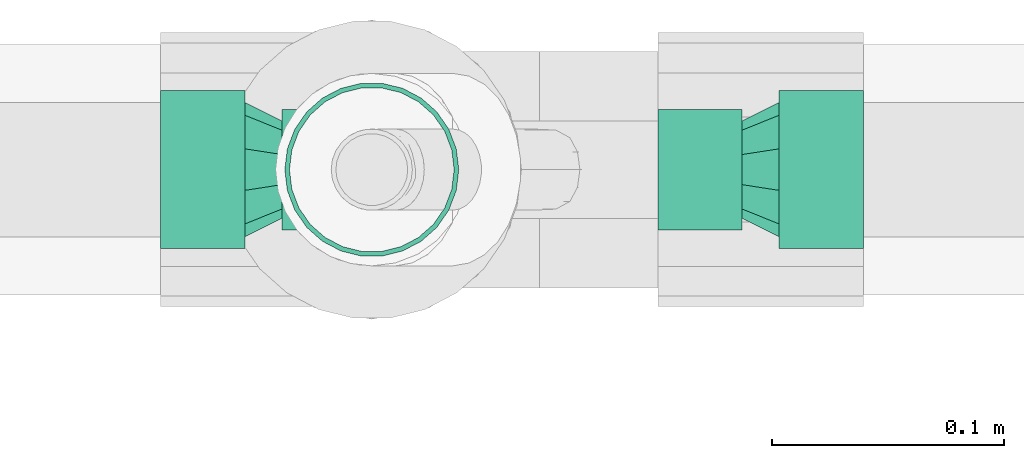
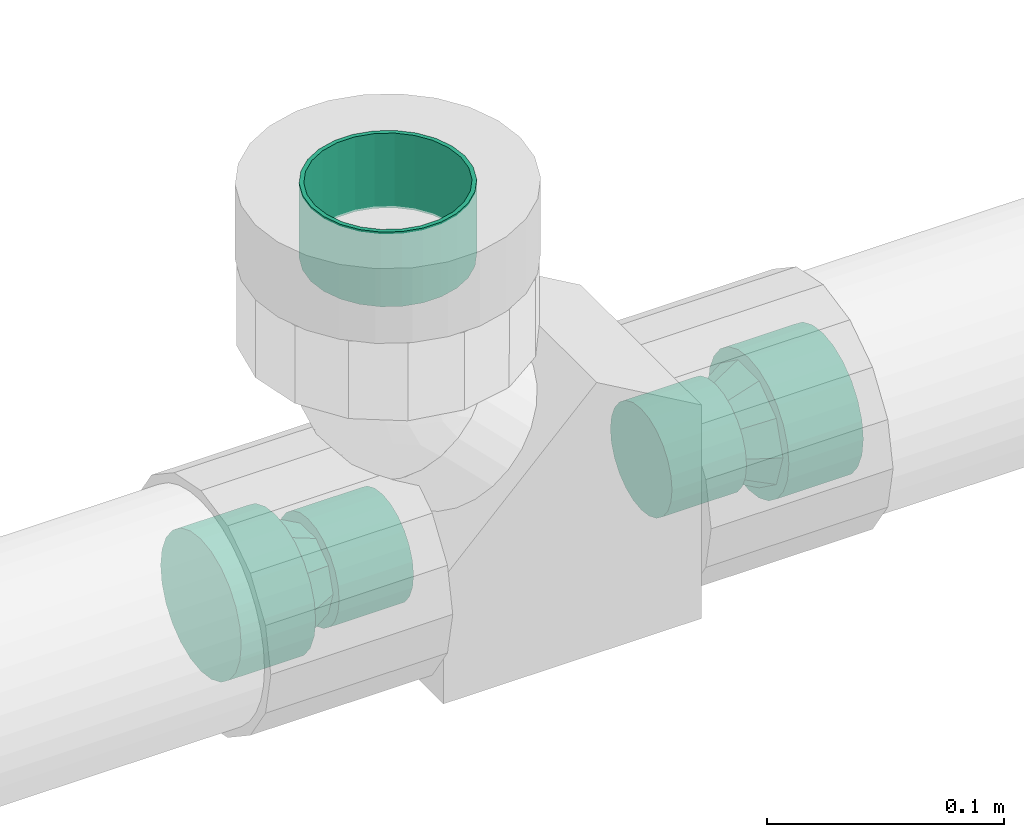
# One storey, part 13 of 35: 2 flow fittings, 1 flow segment.
"""IFC2X3 building model written with IfcOpenShell, lengths in millimetres."""

import ifcopenshell
import ifcopenshell.guid

model = None  # the IFC model being written
_history = None  # IfcOwnerHistory: only IFC2X3 demands one
_inside = {}  # id of a spatial element -> (the spatial element, [elements in it])
_under = {}  # id of a project, library or spatial element -> (it, [spatial elements below it])
_declared = {}  # id of a project -> (the project, [libraries it declares])
_typed = {}  # id of a type object -> (the type object, [elements of that type])
_made_of = {}  # id of a material, layer set ... -> (it, [elements and type objects made of it])


def new_model(schema):
    """Start an empty IFC model of exactly this schema.

    Asked for "IFC4X3", IfcOpenShell would pick the latest addendum, in which some entities
    have other attributes; the version numbers below select the first issue.
    IFC2X3 requires an IfcOwnerHistory on every rooted entity: one is made here for all.
    """
    global model, _history
    if schema == "IFC4X3":
        model = ifcopenshell.file(schema_version=(4, 3, 0, 0))
    else:
        model = ifcopenshell.file(schema=schema)
    _inside.clear()
    _under.clear()
    _declared.clear()
    _typed.clear()
    _made_of.clear()
    _history = None
    if model.schema == "IFC2X3":
        org = make("IfcOrganization", Name="unknown")
        user = make(
            "IfcPersonAndOrganization",
            ThePerson=make("IfcPerson", FamilyName="unknown"),
            TheOrganization=org,
        )
        app = make(
            "IfcApplication",
            ApplicationDeveloper=org,
            Version="unknown",
            ApplicationFullName="unknown",
            ApplicationIdentifier="unknown",
        )
        _history = make(
            "IfcOwnerHistory",
            OwningUser=user,
            OwningApplication=app,
            ChangeAction="ADDED",
            CreationDate=0,
        )
    return model


def make(cls, **values):
    """One entity of the class cls with the attributes given. An attribute that is None is left unset."""
    return model.create_entity(
        cls, **{name: value for name, value in values.items() if value is not None}
    )


def entity(cls, *values):
    """Any entity or typed value of the class cls, its attributes in the order of the schema. None: left unset."""
    e = model.create_entity(cls)
    for i, value in enumerate(values):
        if value is not None:
            e[i] = value
    return e


def rooted(cls, **values):
    """An entity with a GlobalId (a new one), such as an element, a storey or a relation."""
    return make(cls, GlobalId=ifcopenshell.guid.new(), OwnerHistory=_history, **values)


def si_unit(unit_type, name, prefix=None):
    """IfcSIUnit, for example si_unit("LENGTHUNIT", "METRE", prefix="MILLI")."""
    return make("IfcSIUnit", UnitType=unit_type, Prefix=prefix, Name=name)


def converted_unit(unit_type, name, factor, base, dimensions=None, offset=None):
    """IfcConversionBasedUnit, such as the inch: factor (a typed value) times the base unit."""
    return make(
        "IfcConversionBasedUnit"
        if offset is None
        else "IfcConversionBasedUnitWithOffset",
        ConversionOffset=offset,
        Dimensions=None
        if dimensions is None
        else entity("IfcDimensionalExponents", *dimensions),
        UnitType=unit_type,
        Name=name,
        ConversionFactor=make(
            "IfcMeasureWithUnit", ValueComponent=factor, UnitComponent=base
        ),
    )


def derived_unit(unit_type, elements):
    """IfcDerivedUnit: a product of units, each with its exponent."""
    return make(
        "IfcDerivedUnit",
        Elements=[
            make("IfcDerivedUnitElement", Unit=unit, Exponent=power)
            for unit, power in elements
        ],
        UnitType=unit_type,
    )


def assignment(units):
    """IfcUnitAssignment: the units of a project."""
    return None if units is None else make("IfcUnitAssignment", Units=units)


def point(xyz):
    """IfcCartesianPoint."""
    return None if xyz is None else make("IfcCartesianPoint", Coordinates=xyz)


def direction(xyz):
    """IfcDirection."""
    return None if xyz is None else make("IfcDirection", DirectionRatios=xyz)


def frame(location, z_axis=None, x_axis=None):
    """IfcAxis2Placement3D, a coordinate frame: its origin and axes. An axis left out is left unset."""
    return make(
        "IfcAxis2Placement3D",
        Location=point(location),
        Axis=direction(z_axis),
        RefDirection=direction(x_axis),
    )


def frame_2d(location, x_axis=None):
    """IfcAxis2Placement2D, a coordinate frame in the plane: its origin and x axis."""
    return make(
        "IfcAxis2Placement2D", Location=point(location), RefDirection=direction(x_axis)
    )


def origin_with_axes():
    """The frame at (0, 0, 0) with the z axis (0, 0, 1) and the x axis (1, 0, 0) written out."""
    return frame((0.0, 0.0, 0.0), z_axis=(0.0, 0.0, 1.0), x_axis=(1.0, 0.0, 0.0))


def origin_2d_with_axis():
    """The frame at (0, 0) in the plane with the x axis (1, 0) written out."""
    return frame_2d((0.0, 0.0), x_axis=(1.0, 0.0))


def place(relative_to, where):
    """IfcLocalPlacement: puts the frame where relative to a parent placement (None: the world)."""
    return make(
        "IfcLocalPlacement", PlacementRelTo=relative_to, RelativePlacement=where
    )


def context(
    kind, dimensions, precision=None, world=None, true_north=None, identifier=None
):
    """IfcGeometricRepresentationContext, for example the 3D "Model" context."""
    return make(
        "IfcGeometricRepresentationContext",
        ContextIdentifier=identifier,
        ContextType=kind,
        CoordinateSpaceDimension=dimensions,
        Precision=precision,
        WorldCoordinateSystem=world,
        TrueNorth=true_north,
    )


def subcontext(parent, identifier, kind, view, scale=None):
    """IfcGeometricRepresentationSubContext, for example "Body" below "Model"."""
    return make(
        "IfcGeometricRepresentationSubContext",
        ContextIdentifier=identifier,
        ContextType=kind,
        ParentContext=parent,
        TargetScale=scale,
        TargetView=view,
    )


def project(units=None, contexts=None):
    """IfcProject with its units and contexts."""
    return rooted(
        "IfcProject",
        Name="project",
        RepresentationContexts=contexts,
        UnitsInContext=assignment(units),
    )


def spatial(cls, under=None, at=None, **own):
    """A site, building, storey or space (cls), placed at a placement, below another one or the project."""
    s = rooted(cls, ObjectPlacement=at, **own)
    if under is not None:
        _under.setdefault(under.id(), (under, []))[1].append(s)
    return s


def profile(cls, at=None, kind="AREA", **sizes):
    """A parametric profile (cls). Its sizes go by their IFC names, for example OverallWidth=200.0."""
    return make(cls, ProfileType=kind, Position=at, **sizes)


def hollow_circle(**sizes):
    """IfcCircleHollowProfileDef."""
    return profile("IfcCircleHollowProfileDef", **sizes)


def extrude(swept, where, along, depth):
    """IfcExtrudedAreaSolid: the profile swept, set in the frame where, extruded along a direction by depth."""
    return make(
        "IfcExtrudedAreaSolid",
        SweptArea=swept,
        Position=where,
        ExtrudedDirection=direction(along),
        Depth=depth,
    )


def faces_of(points, faces, orient=None, outer=None):
    """IfcFace entities. A face is a list of loops; a loop is a list of indices into points, from 0.

    orient and outer hold one flag for each loop. By default every Orientation is true, the
    first loop of a face is its IfcFaceOuterBound and the others are IfcFaceBound.
    """
    made = []
    for i, loops in enumerate(faces):
        bounds = []
        for j, loop in enumerate(loops):
            is_outer = j == 0 if outer is None else outer[i][j]
            bounds.append(
                make(
                    "IfcFaceOuterBound" if is_outer else "IfcFaceBound",
                    Bound=make("IfcPolyLoop", Polygon=[points[k] for k in loop]),
                    Orientation=True if orient is None else orient[i][j],
                )
            )
        made.append(make("IfcFace", Bounds=bounds))
    return made


def open_shell(faces, orient=None, outer=None):
    """The faces of one IfcOpenShell. surface_model builds it on its shared points."""
    return ("IfcOpenShell", faces, orient, outer)


def surface_model(cls, points, shells):
    """IfcFaceBasedSurfaceModel or IfcShellBasedSurfaceModel (cls): surfaces that need not close."""
    shared = [point(p) for p in points]
    made = [make(c, CfsFaces=faces_of(shared, fs, o, b)) for c, fs, o, b in shells]
    if cls == "IfcFaceBasedSurfaceModel":
        return make(cls, FbsmFaces=made)
    return make(cls, SbsmBoundary=made)


def shape(context_of_items, identifier, shape_type, items):
    """IfcShapeRepresentation: the items that make up one representation, for example the "Body"."""
    return make(
        "IfcShapeRepresentation",
        ContextOfItems=context_of_items,
        RepresentationIdentifier=identifier,
        RepresentationType=shape_type,
        Items=items,
    )


def source(mapping_origin, context_of_items, identifier, shape_type, items):
    """IfcRepresentationMap: a shape defined once, which mapped items show again and again."""
    return make(
        "IfcRepresentationMap",
        MappingOrigin=mapping_origin,
        MappedRepresentation=shape(context_of_items, identifier, shape_type, items),
    )


def transform(
    local_origin,
    x_axis=None,
    y_axis=None,
    z_axis=None,
    scale=None,
    scale2=None,
    scale3=None,
    uniform=True,
):
    """IfcCartesianTransformationOperator3D, or its non-uniform kind. x_axis, y_axis, z_axis: its Axis1, 2, 3."""
    if uniform:
        return make(
            "IfcCartesianTransformationOperator3D",
            Axis1=direction(x_axis),
            Axis2=direction(y_axis),
            LocalOrigin=point(local_origin),
            Scale=scale,
            Axis3=direction(z_axis),
        )
    return make(
        "IfcCartesianTransformationOperator3DnonUniform",
        Axis1=direction(x_axis),
        Axis2=direction(y_axis),
        LocalOrigin=point(local_origin),
        Scale=scale,
        Axis3=direction(z_axis),
        Scale2=scale2,
        Scale3=scale3,
    )


def mapped(mapping_source, mapping_target):
    """IfcMappedItem: shows the shape of a source again, moved by a transform."""
    return make(
        "IfcMappedItem", MappingSource=mapping_source, MappingTarget=mapping_target
    )


def made_of(thing, what):
    """Note that an element or type object is made of a material, layer set ...; save() writes the relation."""
    if what is not None:
        _made_of.setdefault(what.id(), (what, []))[1].append(thing)
    return thing


def type_object(cls, material=None, **own):
    """A type object (cls), such as IfcWallType, which elements share."""
    return made_of(rooted(cls, **own), material)


def element(
    cls,
    number,
    at=None,
    inside=None,
    cuts=None,
    type_object=None,
    material=None,
    context=None,
    identifier="Body",
    shape_type=None,
    held_by="IfcProductDefinitionShape",
    body=None,
    shapes=None,
    **own,
):
    """One element of the class cls, such as IfcWall. Its Tag is "e" and its number.

    at: its placement. inside: the storey or other place that contains it. cuts: it is an
    opening in that element (IfcRelVoidsElement). A single representation is given by context,
    identifier, shape_type and body (its items); several are given by shapes. held_by: the class
    of the entity that holds the representations. save() writes the other relations.
    """
    e = rooted(cls, Tag="e%d" % number, ObjectPlacement=at, **own)
    if body is not None:
        shapes = [shape(context, identifier, shape_type, body)]
    if shapes is not None:
        e.Representation = make(held_by, Representations=shapes)
    if inside is not None:
        _inside.setdefault(inside.id(), (inside, []))[1].append(e)
    if cuts is not None:
        rooted(
            "IfcRelVoidsElement", RelatingBuildingElement=cuts, RelatedOpeningElement=e
        )
    if type_object is not None:
        _typed.setdefault(type_object.id(), (type_object, []))[1].append(e)
    return made_of(e, material)


def aggregate(whole, parts):
    """IfcRelAggregates: a whole, such as a stair, and the parts it consists of."""
    return rooted("IfcRelAggregates", RelatingObject=whole, RelatedObjects=parts)


def save(model, path):
    """Write the relations noted so far, then the file.

    IfcRelAggregates (storeys below a building ...), IfcRelContainedInSpatialStructure (elements
    in a storey), IfcRelDefinesByType, IfcRelAssociatesMaterial and IfcRelDeclares: one each for
    every whole, place, type object, material and project.
    """
    for whole, parts in _under.values():
        aggregate(whole, parts)
    for where, things in _inside.values():
        rooted(
            "IfcRelContainedInSpatialStructure",
            RelatedElements=things,
            RelatingStructure=where,
        )
    for kind, things in _typed.values():
        rooted("IfcRelDefinesByType", RelatedObjects=things, RelatingType=kind)
    for what, things in _made_of.values():
        rooted("IfcRelAssociatesMaterial", RelatedObjects=things, RelatingMaterial=what)
    for by, libraries in _declared.values():
        rooted("IfcRelDeclares", RelatingContext=by, RelatedDefinitions=libraries)
    model.write(path)


model = new_model("IFC2X3")

# Units and contexts
model_context = context("Model", 3, precision=0.01, world=frame((0.0, 4.29681676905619e-09, 0.0)), true_north=direction((4.01073788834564e-13, 1.0)))
plan_context = context("Plan", 3, precision=0.01, world=frame((0.0, 4.29681676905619e-09, 0.0)), true_north=direction((4.01073788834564e-13, 1.0)))
body_context = subcontext(model_context, "Body", "Model", "MODEL_VIEW")
ifc_project = project(units=[converted_unit("PLANEANGLEUNIT", "DEGREE", entity("IfcPositiveLengthMeasure", 0.0174532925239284), si_unit("PLANEANGLEUNIT", "RADIAN"), dimensions=[0, 0, 0, 0, 0, 0, 0]), si_unit("AREAUNIT", "SQUARE_METRE"), si_unit("LENGTHUNIT", "METRE", prefix="MILLI"), si_unit("MASSUNIT", "GRAM", prefix="KILO"), si_unit("POWERUNIT", "WATT"), si_unit("PRESSUREUNIT", "PASCAL"), si_unit("FORCEUNIT", "NEWTON", prefix="KILO"), si_unit("ELECTRICVOLTAGEUNIT", "VOLT"), si_unit("ELECTRICCURRENTUNIT", "AMPERE"), si_unit("THERMODYNAMICTEMPERATUREUNIT", "DEGREE_CELSIUS"), si_unit("TIMEUNIT", "SECOND"), si_unit("VOLUMEUNIT", "CUBIC_METRE"), derived_unit("LINEARVELOCITYUNIT", [(si_unit("LENGTHUNIT", "METRE"), 1), (si_unit("TIMEUNIT", "SECOND"), -1)]), derived_unit("VOLUMETRICFLOWRATEUNIT", [(si_unit("VOLUMEUNIT", "CUBIC_METRE"), 1), (si_unit("TIMEUNIT", "SECOND"), -1)]), derived_unit("THERMALTRANSMITTANCEUNIT", [(si_unit("POWERUNIT", "WATT"), 1), (si_unit("THERMODYNAMICTEMPERATUREUNIT", "KELVIN"), -1), (si_unit("AREAUNIT", "SQUARE_METRE"), -1)]), derived_unit("SOUNDPRESSUREUNIT", [(si_unit("PRESSUREUNIT", "PASCAL"), 1)])], contexts=[model_context, plan_context])

# Site, building, storey
site_placement = place(None, frame((0.0, -4.29681676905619e-09, 0.0), z_axis=(0.0, 0.0, 1.0), x_axis=(1.0, 0.0, 0.0)))
site = spatial("IfcSite", under=ifc_project, at=site_placement, Name="ENGM", CompositionType="ELEMENT")
building_placement = place(site_placement, frame((0.0, 4.29681676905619e-09, 0.0), z_axis=(0.0, 0.0, 1.0), x_axis=(1.0, 0.0, 0.0)))
building = spatial("IfcBuilding", under=site, at=building_placement, Name="TH", CompositionType="ELEMENT")
storey_placement = place(building_placement, frame((0.0, 0.0, 210200.0), z_axis=(0.0, 0.0, 1.0), x_axis=(1.0, 0.0, 0.0)))
storey = spatial("IfcBuildingStorey", under=building, at=storey_placement, Name="Nivå F - 0,7 m", CompositionType="ELEMENT", Elevation=210200.0)

# Flow fittings
pipe_fitting_type = type_object("IfcPipeFittingType", Name="magi_sewer_transition_NOR", PredefinedType="TRANSITION")
shared_shape_1 = source(origin_with_axes(), body_context, "Body", "SurfaceModel", [
    surface_model("IfcShellBasedSurfaceModel", [(52.3, -8.96149, 27.58064), (52.3, -23.46149, 17.04577), (52.3, 23.46149, 17.04577), (52.3, 8.96149, 27.58064), (52.3, 29.0, 0.0), (52.3, -8.96149, -27.58064), (52.3, -23.46149, -17.04577), (52.3, 8.96149, -27.58064), (52.3, 23.46149, -17.04577), (52.3, -29.0, 0.0), (36.3, 6.48936, 19.97219), (36.3, 16.98936, 12.34349), (36.3, -16.98936, 12.34349), (36.3, -6.48936, 19.97219), (36.3, -21.0, 0.0), (36.3, 6.48936, -19.97219), (36.3, 16.98936, -12.34349), (36.3, -6.48936, -19.97219), (36.3, -16.98936, -12.34349), (36.3, 21.0, 0.0), (36.3, -18.99468, -6.17175), (52.3, 0.0, -27.58064), (36.3, -11.73936, -16.15784), (52.3, -26.23075, -8.52289), (52.3, -16.21149, -22.3132), (36.3, 0.0, -19.97219), (52.3, 16.21149, -22.3132), (36.3, 11.73936, -16.15784), (52.3, 27.12314, -5.77639), (52.3, 25.24627, -11.55279), (36.3, 18.99468, -6.17175), (36.3, 18.99468, 6.17175), (52.3, 0.0, 27.58064), (36.3, 11.73936, 16.15784), (52.3, 26.23075, 8.52289), (52.3, 16.21149, 22.3132), (36.3, 0.0, 19.97219), (52.3, -16.21149, 22.3132), (36.3, -11.73936, 16.15784), (52.3, -27.12314, 5.77639), (52.3, -25.24627, 11.55279), (36.3, -18.99468, 6.17175), (52.3, 0.0, 34.0), (52.3, 8.79985, 32.84148), (52.3, 17.0, 29.44486), (52.3, 24.04163, 24.04163), (52.3, 29.44486, 17.0), (52.3, 32.84148, 8.79985), (52.3, -32.84148, 8.79985), (52.3, -8.79985, 32.84148), (52.3, -24.04163, 24.04163), (52.3, -17.0, 29.44486), (52.3, -29.44486, 17.0), (52.3, -32.84148, -8.79985), (52.3, -34.0, 0.0), (52.3, 17.0, -29.44486), (52.3, 34.0, 0.0), (52.3, 32.84148, -8.79985), (52.3, 24.04163, -24.04163), (52.3, 29.44486, -17.0), (52.3, 8.79985, -32.84148), (52.3, -24.04163, -24.04163), (52.3, -29.44486, -17.0), (52.3, -17.0, -29.44486), (52.3, 0.0, -34.0), (52.3, -8.79985, -32.84148), (88.6, 17.0, -29.44486), (88.6, -32.84148, -8.79985), (88.6, 8.79985, -32.84148), (88.6, 29.44486, -17.0), (88.6, 24.04163, -24.04163), (88.6, -32.84148, 8.79985), (88.6, 32.84148, -8.79985), (88.6, -8.79985, -32.84148), (88.6, -24.04163, -24.04163), (88.6, -17.0, -29.44486), (88.6, 0.0, -34.0), (88.6, -29.44486, -17.0), (88.6, 34.0, 0.0), (88.6, 32.84148, 8.79985), (88.6, 29.44486, 17.0), (88.6, 24.04163, 24.04163), (88.6, 17.0, 29.44486), (88.6, 8.79985, 32.84148), (88.6, 0.0, 34.0), (88.6, -8.79985, 32.84148), (88.6, -24.04163, 24.04163), (88.6, -29.44486, 17.0), (88.6, -34.0, 0.0), (88.6, -17.0, 29.44486), (36.3, 13.0, -22.51666), (36.3, -13.0, -22.51666), (36.3, 6.72929, -25.11407), (36.3, 25.11407, -6.72929), (36.3, 18.38478, -18.38478), (36.3, -25.11407, 6.72929), (36.3, 22.51666, -13.0), (36.3, 0.0, -26.0), (36.3, -6.72929, -25.11407), (36.3, -22.51666, -13.0), (36.3, -18.38478, -18.38478), (36.3, -26.0, 0.0), (36.3, -25.11407, -6.72929), (36.3, 25.11407, 6.72929), (36.3, 26.0, 0.0), (36.3, 22.51666, 13.0), (36.3, 18.38478, 18.38478), (36.3, 13.0, 22.51666), (36.3, 6.72929, 25.11407), (36.3, 0.0, 26.0), (36.3, -6.72929, 25.11407), (36.3, -18.38478, 18.38478), (36.3, -22.51666, 13.0), (36.3, -13.0, 22.51666), (0.0, 0.0, 26.0), (0.0, 6.72929, 25.11407), (0.0, 13.0, 22.51666), (0.0, -6.72929, 25.11407), (0.0, 18.38478, 18.38478), (0.0, 22.51666, 13.0), (0.0, 25.11407, 6.72929), (0.0, -22.51666, -13.0), (0.0, -25.11407, 6.72929), (0.0, -18.38478, 18.38478), (0.0, -13.0, 22.51666), (0.0, -22.51666, 13.0), (0.0, -26.0, 0.0), (0.0, 25.11407, -6.72929), (0.0, 18.38478, -18.38478), (0.0, 22.51666, -13.0), (0.0, 13.0, -22.51666), (0.0, 6.72929, -25.11407), (0.0, -13.0, -22.51666), (0.0, -18.38478, -18.38478), (0.0, -25.11407, -6.72929), (0.0, 0.0, -26.0), (0.0, -6.72929, -25.11407), (0.0, 26.0, 0.0)], [open_shell([[[0, 1, 2]], [[0, 2, 3]], [[2, 1, 4]], [[1, 5, 4]], [[6, 5, 1]], [[7, 8, 4]], [[4, 5, 7]], [[9, 6, 1]], [[10, 11, 12]], [[10, 12, 13]], [[12, 11, 14]], [[11, 15, 14]], [[16, 15, 11]], [[14, 17, 18]], [[14, 15, 17]], [[11, 19, 16]], [[20, 18, 6]], [[21, 5, 17]], [[5, 22, 17]], [[14, 23, 9]], [[20, 6, 23]], [[24, 18, 22]], [[25, 7, 21]], [[26, 15, 27]], [[7, 25, 15]], [[28, 29, 30]], [[15, 26, 7]], [[5, 24, 22]], [[29, 16, 30]], [[18, 24, 6]], [[27, 8, 26]], [[16, 29, 8]], [[23, 14, 20]], [[19, 28, 30]], [[21, 17, 25]], [[28, 19, 4]], [[27, 16, 8]], [[31, 11, 2]], [[32, 3, 10]], [[3, 33, 10]], [[19, 34, 4]], [[31, 2, 34]], [[35, 11, 33]], [[36, 0, 32]], [[37, 13, 38]], [[0, 36, 13]], [[39, 40, 41]], [[13, 37, 0]], [[3, 35, 33]], [[40, 12, 41]], [[11, 35, 2]], [[38, 1, 37]], [[12, 40, 1]], [[34, 19, 31]], [[14, 39, 41]], [[32, 10, 36]], [[39, 14, 9]], [[38, 12, 1]], [[42, 43, 44]], [[42, 44, 45]], [[45, 46, 47]], [[45, 47, 42]], [[42, 47, 48]], [[49, 50, 51]], [[50, 49, 48]], [[50, 48, 52]], [[49, 42, 48]], [[48, 53, 54]], [[48, 47, 53]], [[55, 56, 57]], [[58, 57, 59]], [[56, 55, 53]], [[55, 57, 58]], [[53, 55, 60]], [[53, 61, 62]], [[61, 53, 63]], [[63, 64, 65]], [[63, 53, 60]], [[60, 64, 63]], [[56, 53, 47]], [[66, 67, 68]], [[69, 66, 70]], [[71, 67, 66]], [[72, 66, 69]], [[72, 71, 66]], [[73, 74, 75]], [[73, 76, 68]], [[74, 67, 77]], [[67, 74, 73]], [[68, 67, 73]], [[72, 78, 79]], [[79, 80, 81]], [[79, 81, 82]], [[82, 83, 84]], [[82, 84, 79]], [[79, 84, 85]], [[71, 86, 87]], [[88, 67, 71]], [[86, 85, 89]], [[86, 71, 79]], [[85, 86, 79]], [[71, 72, 79]], [[53, 67, 54]], [[62, 77, 53]], [[75, 61, 63]], [[62, 61, 74]], [[73, 63, 65]], [[53, 77, 67]], [[67, 88, 54]], [[73, 64, 76]], [[73, 75, 63]], [[74, 61, 75]], [[74, 77, 62]], [[64, 73, 65]], [[68, 60, 55]], [[58, 66, 55]], [[69, 59, 57]], [[58, 59, 70]], [[72, 57, 56]], [[60, 68, 76]], [[55, 66, 68]], [[58, 70, 66]], [[59, 69, 70]], [[72, 69, 57]], [[56, 78, 72]], [[60, 76, 64]], [[47, 79, 56]], [[46, 80, 47]], [[82, 45, 44]], [[46, 45, 81]], [[83, 44, 43]], [[47, 80, 79]], [[79, 78, 56]], [[83, 42, 84]], [[83, 82, 44]], [[81, 45, 82]], [[81, 80, 46]], [[42, 83, 43]], [[85, 49, 51]], [[50, 89, 51]], [[87, 52, 48]], [[50, 52, 86]], [[71, 48, 54]], [[51, 89, 85]], [[85, 84, 49]], [[50, 86, 89]], [[87, 86, 52]], [[71, 87, 48]], [[54, 88, 71]], [[49, 84, 42]], [[90, 91, 92]], [[93, 90, 94]], [[95, 91, 90]], [[93, 94, 96]], [[90, 93, 95]], [[97, 91, 98]], [[97, 92, 91]], [[91, 99, 100]], [[91, 95, 99]], [[99, 101, 102]], [[103, 93, 104]], [[103, 105, 106]], [[103, 106, 107]], [[107, 108, 109]], [[110, 93, 107]], [[110, 107, 109]], [[95, 111, 112]], [[101, 99, 95]], [[111, 110, 113]], [[110, 111, 95]], [[110, 95, 93]], [[93, 103, 107]], [[114, 115, 116]], [[117, 114, 116]], [[118, 119, 120]], [[118, 120, 116]], [[121, 122, 116]], [[117, 123, 124]], [[123, 117, 122]], [[123, 122, 125]], [[117, 116, 122]], [[122, 121, 126]], [[121, 116, 120]], [[121, 120, 127]], [[128, 127, 129]], [[130, 131, 127]], [[130, 127, 128]], [[132, 127, 131]], [[121, 132, 133]], [[134, 126, 121]], [[132, 135, 136]], [[132, 121, 127]], [[135, 132, 131]], [[120, 137, 127]], [[102, 126, 134]], [[121, 99, 134]], [[91, 132, 136]], [[98, 136, 135]], [[134, 99, 102]], [[102, 101, 126]], [[100, 133, 91]], [[100, 99, 121]], [[91, 133, 132]], [[136, 98, 91]], [[100, 121, 133]], [[135, 97, 98]], [[92, 131, 130]], [[128, 90, 130]], [[96, 129, 127]], [[128, 129, 94]], [[93, 127, 137]], [[131, 92, 97]], [[130, 90, 92]], [[128, 94, 90]], [[129, 96, 94]], [[93, 96, 127]], [[137, 104, 93]], [[131, 97, 135]], [[120, 103, 137]], [[119, 105, 120]], [[119, 118, 106]], [[118, 116, 107]], [[120, 105, 103]], [[103, 104, 137]], [[109, 108, 115]], [[108, 107, 116]], [[106, 118, 107]], [[106, 105, 119]], [[115, 108, 116]], [[115, 114, 109]], [[110, 117, 124]], [[123, 113, 124]], [[112, 125, 122]], [[123, 125, 111]], [[95, 122, 126]], [[117, 110, 109]], [[124, 113, 110]], [[123, 111, 113]], [[125, 112, 111]], [[95, 112, 122]], [[126, 101, 95]], [[117, 109, 114]]])]),
])
for number, where, z_axis, x_axis, name in (
    (1, (905406.68907, 486361.4, 3085.00002000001), (0.0, 0.0, 1.0), (1.0, 0.0, 0.0), "magi_sewer_transition_NOR"),
    (2, (905280.88829, 486361.4, 3085.00002000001), (0.0, 0.0, 1.0), (-1.0, 0.0, 0.0), "magi_sewer_transition_NOR"),
):
    element("IfcFlowFitting", number, at=place(storey_placement, frame(where, z_axis=z_axis, x_axis=x_axis)), inside=storey, type_object=pipe_fitting_type, Name=name, context=body_context, shape_type="MappedRepresentation", body=[
        mapped(shared_shape_1, transform((0.0, 0.0, 0.0), scale=1.0)),
    ])

# Flow segment
pipe_segment_type = type_object("IfcPipeSegmentType", Name="MA", PredefinedType="RIGIDSEGMENT")
shared_shape_2 = source(origin_with_axes(), body_context, "Body", "SweptSolid", [
    extrude(hollow_circle(Radius=37.5, WallThickness=2.0, at=origin_2d_with_axis()), frame((0.0, 0.0, 0.0), z_axis=(1.0, 0.0, 0.0), x_axis=(0.0, 1.0, 0.0)), (0.0, 0.0, 1.0), 38.5),
])
flow_segment_placement = place(storey_placement, frame((905283.35126, 486361.37043, 3271.38279), z_axis=(0.0, 1.0, 0.0), x_axis=(0.0, 0.0, -1.0)))
element("IfcFlowSegment", 3, at=flow_segment_placement, inside=storey, type_object=pipe_segment_type, Name="MA", context=body_context, shape_type="MappedRepresentation", body=[
    mapped(shared_shape_2, transform((0.0, 0.0, 0.0), scale=1.0)),
])

save(model, "model.ifc")
